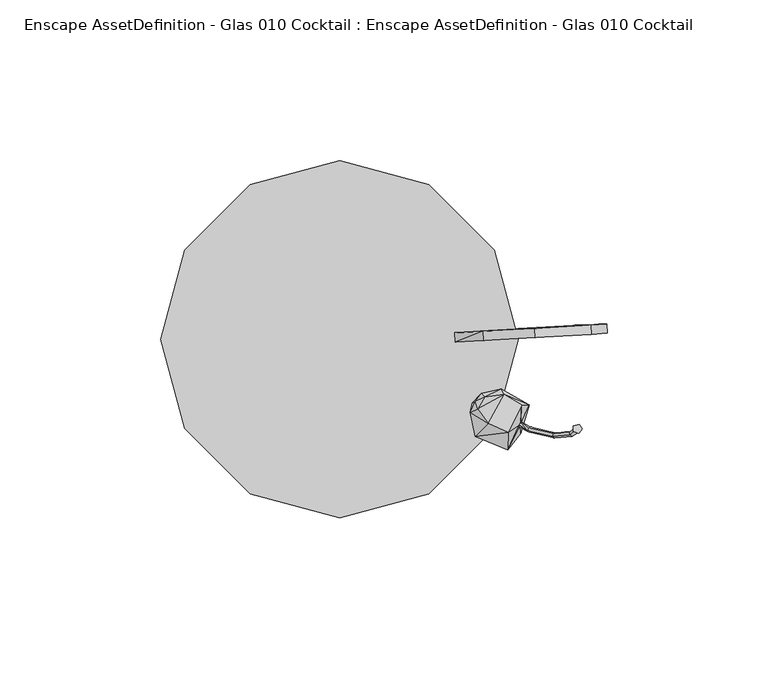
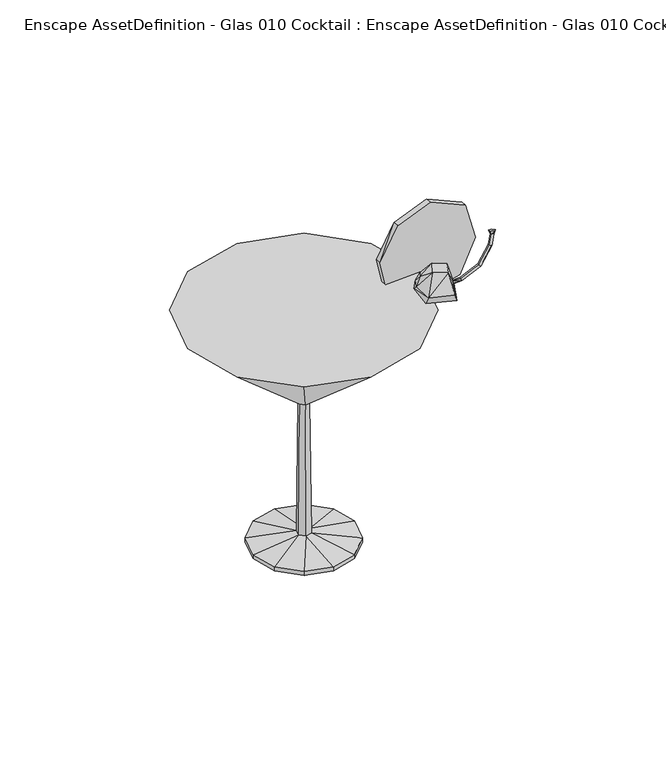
"""IFC4 building model written with IfcOpenShell, lengths in millimetres: geographic element geometry, Enscape AssetDefinition - Glas 010 Cocktail : Enscape AssetDefinition - Glas 010 Cocktail."""

from ifc_helpers import new_model, si_unit, origin, place, context, project, spatial, triangles, source, transform, mapped, element, save


def enscape_assetdefinition_glas_010_cocktail_enscape_a5b9dfca(model_context):
    return source(origin(), model_context, "Body", "Tessellation", [
        triangles([(24.2941249, 0.0, 0.0), (24.2941249, 0.0, 1.8707004), (21.039854, 12.1475416, 0.0), (21.039854, 12.1475416, 1.8707004), (0.8349454, 3.1139905, 5.0212017), (3.1139905, 0.8349454, 5.0212017), (21.039854, -12.1475416, 0.0), (21.039854, -12.1475416, 1.8707004), (12.1475416, -21.039854, 0.0), (12.1475416, -21.039854, 1.8707004), (0.0, -24.2941249, 0.0), (0.0, -24.2941249, 1.8707004), (-12.1475416, -21.039854, 1.8707004), (-0.8349454, -3.1139905, 5.0212017), (-21.039854, -12.1475416, 0.0), (-12.1475416, -21.039854, 0.0), (-21.039854, 12.1475416, 0.0), (-21.039854, -12.1475416, 1.8707004), (-24.2941249, 0.0, 1.8707004), (-24.2941249, 0.0, 0.0), (-3.1139905, -0.8349454, 5.0212017), (-12.1475416, 21.039854, 0.0), (-21.039854, 12.1475416, 1.8707004), (0.0, 24.2941249, 0.0), (-12.1475416, 21.039854, 1.8707004), (0.0, 24.2941249, 1.8707004), (12.1475416, 21.039854, 1.8707004), (12.1475416, 21.039854, 0.0), (-2.2800062, 2.2800062, 5.0212017), (2.2800062, -2.2800062, 5.0212017), (55.5483717, 0.0, 116.9999624), (2.3818521, 0.6379789, 70.7147789), (27.7741836, 48.1068792, 116.9999624), (48.1068792, 27.7741836, 116.9999624), (1.7438732, -1.7438732, 70.7147789), (48.1068792, -27.7741836, 116.9999624), (0.6379789, 2.3818521, 70.7147789), (0.0, 55.5483717, 116.9999624), (0.0, 0.0, 116.9999624), (-27.7741836, 48.1068792, 116.9999624), (-48.1068792, 27.7741836, 116.9999624), (-2.3818521, -0.6379789, 70.7147789), (-1.7438732, 1.7438732, 70.7147789), (-55.5483717, 0.0, 116.9999624), (-48.1068792, -27.7741836, 116.9999624), (-27.7741836, -48.1068792, 116.9999624), (-0.6379789, -2.3818521, 70.7147789), (0.0, -55.5483717, 116.9999624), (27.7741836, -48.1068792, 116.9999624), (55.7981748, -27.2553449, 127.642872), (55.8462188, -26.6884668, 128.5210524), (52.2835274, -34.4825723, 127.2076242), (56.2901143, -25.7699296, 128.2885357), (52.4430244, -29.0299641, 135.3841237), (58.8593206, -27.5714525, 129.8219904), (58.5672373, -28.520736, 129.7662707), (59.3185904, -27.3398964, 128.9697623), (58.9746252, -20.4979562, 123.6593488), (56.5783552, -20.3865032, 133.1915522), (56.5168673, -25.768969, 127.2671954), (56.2122892, -26.6875062, 126.8675014), (67.0685034, -29.113555, 134.4127531), (71.5881585, -28.811861, 142.7987238), (66.3613382, -29.2874611, 135.091082), (59.3109055, -28.1469806, 128.387494), (72.4692185, -28.6216201, 142.376929), (58.846835, -28.8771959, 128.8794426), (56.3198999, -29.2096383, 119.9611915), (42.252658, -30.1493089, 126.7502757), (44.7296235, -23.5379664, 118.8764285), (41.2486041, -19.8186645, 125.4771975), (44.0705113, -16.8151653, 127.0269939), (45.1283637, -17.9431589, 131.1354186), (50.2783173, -15.517109, 122.966604), (42.9761468, -21.6297912, 132.1365839), (46.2707722, -26.2147857, 135.707932), (51.2304803, -17.1716274, 133.369312), (40.5750806, -22.7991012, 128.6488516), (42.1460058, -19.3257667, 129.2137972), (67.3615497, -29.9888558, 134.0418727), (72.9717223, -29.4786626, 142.315432), (66.8350238, -30.7046574, 134.4905826), (73.956555, -27.5387828, 146.8591136), (73.0274556, -27.7636147, 147.1377485), (75.5073052, -27.9653851, 148.2484365), (74.5167134, -28.3535541, 146.9724788), (72.4010041, -30.1983134, 142.6997473), (74.447527, -26.4828516, 147.9429047), (72.7084662, -26.9248259, 148.3810411), (72.6921336, -28.6802307, 148.956551), (73.0140072, -28.7167405, 147.4231054), (71.5458827, -29.7861225, 142.9985571), (73.9344588, -29.0818482, 147.3203046), (74.4225513, -29.3230126, 148.8739253), (73.9546429, -27.8760283, 148.4771199), (66.2162616, -30.2713331, 135.1381539), (83.1928417, 1.8851124, 123.7160314), (83.0266273, 4.7944504, 123.7294844), (78.18221, 1.5180826, 141.7620047), (78.0159865, 4.4274198, 141.7744949), (58.9390714, 0.4919356, 125.8038763), (75.3958612, 1.5132784, 107.7771333), (75.2296377, 4.4226162, 107.7905863), (58.7728524, 3.4012734, 125.8173293), (60.7281019, 0.4842491, 149.9865481), (44.5144068, 2.5038752, 144.3139202), (60.5618784, 3.3935869, 150.0000102), (35.7815891, 2.0763141, 128.774716), (52.7322237, 3.159149, 103.3814168), (52.8984472, 0.249811, 103.3679638), (39.2847069, 2.3482238, 113.0683165), (39.4509304, -0.561114, 113.0558263), (35.9468497, -0.8330237, 128.7622168), (44.6796629, -0.4054625, 144.3004762)], [[101, 113, 112], [113, 101, 114], [113, 114, 106], [112, 113, 108], [106, 108, 113], [108, 111, 112], [111, 109, 110], [110, 112, 111], [112, 110, 101], [101, 110, 102], [103, 102, 110], [110, 109, 103], [108, 104, 111], [103, 109, 104], [104, 108, 106], [111, 104, 109], [107, 106, 114], [106, 107, 104], [114, 105, 107], [114, 101, 105], [100, 107, 105], [104, 107, 100], [100, 98, 104], [104, 98, 103], [103, 98, 97], [97, 102, 103], [102, 97, 101], [105, 99, 100], [98, 100, 99], [99, 97, 98], [105, 101, 99], [99, 101, 97], [87, 92, 96], [90, 94, 95], [94, 85, 95], [92, 87, 93], [85, 94, 93], [93, 91, 92], [94, 90, 91], [91, 93, 94], [63, 92, 91], [91, 84, 63], [84, 91, 90], [89, 90, 95], [90, 89, 84], [88, 89, 95], [85, 88, 95], [86, 93, 87], [88, 85, 86], [93, 86, 85], [89, 88, 83], [83, 84, 89], [86, 83, 88], [66, 63, 84], [84, 83, 66], [81, 66, 83], [83, 86, 81], [87, 81, 86], [96, 82, 87], [81, 87, 82], [66, 81, 80], [82, 80, 81], [80, 82, 67], [79, 75, 73], [79, 73, 72], [79, 72, 71], [79, 78, 75], [79, 71, 78], [76, 75, 78], [59, 77, 76], [75, 76, 77], [77, 73, 75], [77, 59, 58], [58, 74, 77], [73, 77, 74], [74, 72, 73], [72, 74, 70], [70, 71, 72], [78, 69, 76], [71, 70, 69], [69, 78, 71], [74, 58, 68], [68, 70, 74], [69, 70, 68], [61, 68, 58], [61, 65, 67], [67, 65, 80], [63, 66, 62], [80, 62, 66], [62, 80, 65], [64, 96, 92], [92, 63, 64], [62, 64, 63], [57, 65, 61], [64, 62, 57], [65, 57, 62], [61, 60, 57], [60, 58, 59], [58, 60, 61], [55, 57, 60], [96, 64, 55], [57, 55, 64], [56, 67, 82], [82, 96, 56], [55, 56, 96], [56, 55, 53], [60, 53, 55], [59, 53, 60], [54, 76, 69], [76, 54, 59], [53, 59, 54], [67, 56, 51], [53, 51, 56], [54, 51, 53], [51, 50, 67], [67, 50, 61], [69, 52, 54], [68, 52, 69], [52, 50, 51], [51, 54, 52], [61, 50, 52], [52, 68, 61], [49, 36, 39], [48, 49, 39], [49, 48, 47], [46, 48, 39], [47, 48, 46], [45, 46, 39], [46, 45, 42], [42, 47, 46], [44, 45, 39], [42, 45, 44], [41, 44, 39], [44, 41, 43], [43, 42, 44], [42, 43, 29], [40, 41, 39], [43, 41, 40], [38, 40, 39], [40, 38, 37], [37, 43, 40], [33, 38, 39], [37, 38, 33], [34, 33, 39], [39, 36, 31], [31, 34, 39], [31, 36, 35], [35, 36, 49], [47, 35, 49], [35, 32, 31], [33, 34, 32], [32, 37, 33], [32, 34, 31], [32, 35, 30], [30, 6, 32], [37, 32, 6], [43, 37, 5], [5, 29, 43], [6, 5, 37], [3, 28, 27], [29, 5, 26], [27, 26, 5], [26, 27, 28], [26, 25, 29], [24, 28, 3], [25, 26, 24], [28, 24, 26], [17, 24, 3], [17, 22, 24], [24, 22, 25], [25, 23, 29], [23, 25, 22], [22, 17, 23], [47, 42, 21], [29, 21, 42], [21, 29, 23], [23, 19, 21], [19, 23, 17], [17, 20, 19], [19, 18, 21], [18, 19, 20], [35, 47, 14], [14, 30, 35], [21, 14, 47], [14, 21, 18], [18, 13, 14], [15, 20, 17], [13, 18, 15], [20, 15, 18], [15, 16, 13], [30, 14, 12], [13, 12, 14], [12, 13, 16], [11, 17, 3], [11, 15, 17], [11, 16, 15], [16, 11, 12], [12, 10, 30], [10, 12, 11], [11, 9, 10], [6, 30, 8], [10, 8, 30], [8, 10, 9], [7, 11, 3], [7, 9, 11], [9, 7, 8], [8, 2, 6], [2, 8, 7], [5, 6, 4], [4, 27, 5], [2, 4, 6], [27, 4, 3], [1, 7, 3], [7, 1, 2], [4, 2, 1], [1, 3, 4]]),
    ])


if __name__ == "__main__":
    model = new_model("IFC4")
    model_context = context("Model", 3, world=origin())
    ifc_project = project(units=[si_unit("LENGTHUNIT", "METRE", prefix="MILLI")], contexts=[model_context])
    site = spatial("IfcSite", under=ifc_project)
    building = spatial("IfcBuilding", under=site)
    placement = place(None, origin())
    enscape_assetdefinition_glas_010_cocktail_enscape_shape = enscape_assetdefinition_glas_010_cocktail_enscape_a5b9dfca(model_context)
    element("IfcGeographicElement", 1, ObjectType="Enscape AssetDefinition - Glas 010 Cocktail : Enscape AssetDefinition - Glas 010 Cocktail", at=placement, inside=building, context=model_context, shape_type="MappedRepresentation", body=[
        mapped(enscape_assetdefinition_glas_010_cocktail_enscape_shape, transform((0.0, 0.0, 0.0), x_axis=(1.0, 0.0, 0.0), y_axis=(0.0, 1.0, 0.0), z_axis=(0.0, 0.0, 1.0))),
    ])
    save(model, "model.ifc")
